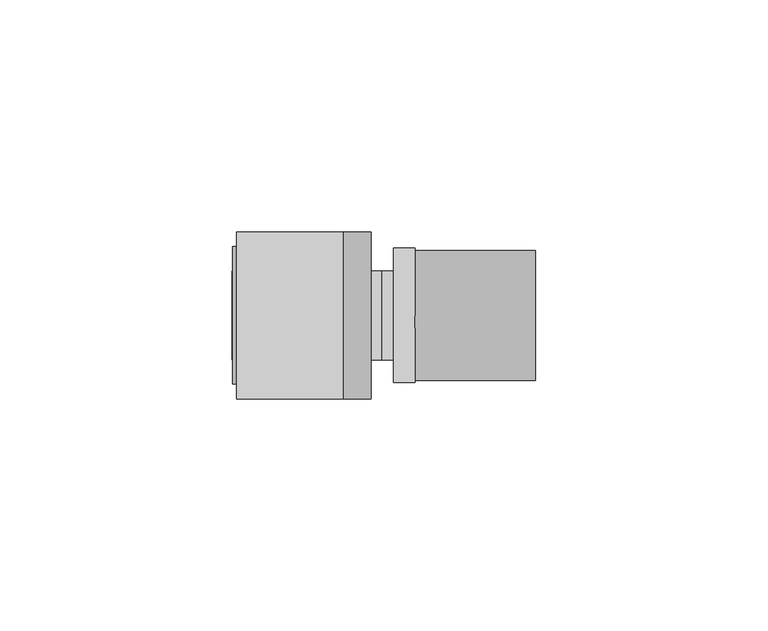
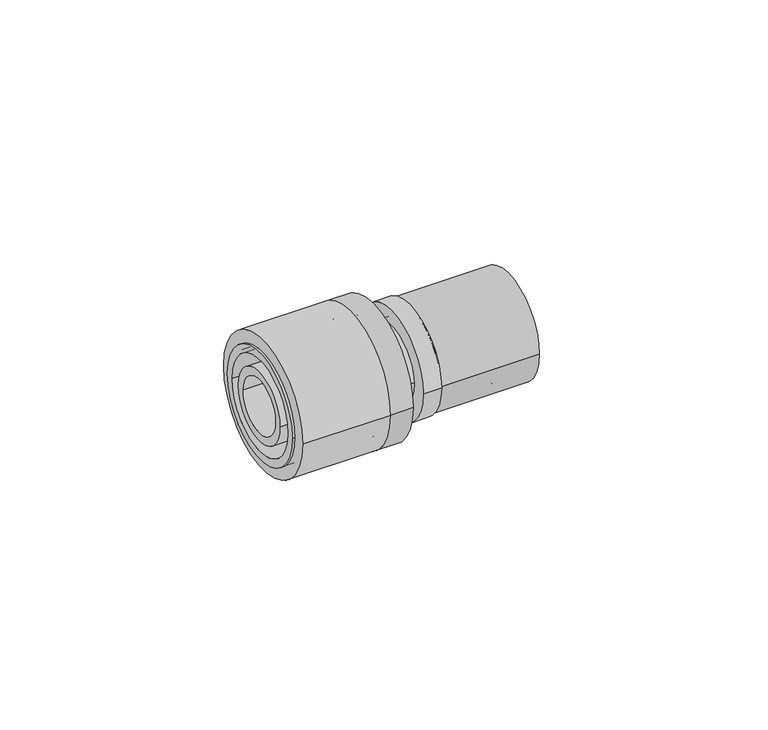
"""IFC4 building model written with IfcOpenShell, lengths in millimetres: pipe fitting geometry, FASTLOC_Coupling reduced LX : FSL C LX CZ."""

from ifc_helpers import new_model, si_unit, point, frame, origin, origin_2d, place, context, project, spatial, polyline, circle_curve, trimmed, segment, composite_curve, outline, extrude, source, transform, mapped, element, save
from ifc_brep_helpers import plane_surface, cylinder_surface, revolved_surface, advanced_brep


def pipe_fitting_0562571e(model_context):
    return source(origin(), model_context, "Body", "SolidModel", [
        extrude(outline(composite_curve([segment(trimmed(circle_curve(origin_2d(), 14.0), [point((-14.0, 0.0))], [point((14.0, 0.0))], False, "CARTESIAN"), True, "CONTINUOUS"), segment(trimmed(circle_curve(origin_2d(), 14.0), [point((14.0, 0.0))], [point((-14.0, 0.0))], False, "CARTESIAN"), True, "CONTINUOUS")], self_intersect=False), holes=[composite_curve([segment(trimmed(circle_curve(origin_2d(), 10.7), [point((-10.7, 0.0))], [point((10.7, 0.0))], True, "CARTESIAN"), True, "CONTINUOUS"), segment(trimmed(circle_curve(origin_2d(), 10.7), [point((10.7, 0.0))], [point((-10.7, 0.0))], True, "CARTESIAN"), True, "CONTINUOUS")], self_intersect=False)]), frame((5.7, 0.0, 0.0), z_axis=(1.0, 0.0, 0.0), x_axis=(0.0, 1.0, 0.0)), (0.0, 0.0, 1.0), 26.0),
        advanced_brep(
        [(5.7, 14.5, 0.0), (5.7, -14.5, 0.0), (1.0, -14.5, 0.0), (1.0, 14.5, 0.0), (22.7, 11.85, 0.0), (22.7, -11.85, 0.0), (5.7, -11.85, 0.0), (5.7, 11.85, 0.0), (1.0, 10.15, 0.0), (1.0, -10.15, 0.0), (22.7, -10.15, 0.0), (22.7, 10.15, 0.0)],
        [
            (0, 1, circle_curve(frame((5.7, 0.0, 0.0), z_axis=(-1.0, 0.0, 0.0), x_axis=(0.0, -1.0, 0.0)), 14.5)),
            (1, 2),
            (2, 3, circle_curve(frame((1.0, 0.0, 0.0), z_axis=(1.0, 0.0, 0.0), x_axis=(0.0, -1.0, 0.0)), 14.5)),
            (3, 0),
            (4, 5, circle_curve(frame((22.7, 0.0, 0.0), z_axis=(-1.0, 0.0, 0.0), x_axis=(0.0, -1.0, 0.0)), 11.85)),
            (5, 6),
            (6, 7, circle_curve(frame((5.7, 0.0, 0.0), z_axis=(1.0, 0.0, 0.0), x_axis=(0.0, -1.0, 0.0)), 11.85)),
            (7, 4),
            (8, 9, circle_curve(frame((1.0, 0.0, 0.0), z_axis=(-1.0, 0.0, 0.0), x_axis=(0.0, -1.0, 0.0)), 10.15)),
            (9, 10),
            (10, 11, circle_curve(frame((22.7, 0.0, 0.0), z_axis=(1.0, 0.0, 0.0), x_axis=(0.0, -1.0, 0.0)), 10.15)),
            (11, 8),
            (1, 0, circle_curve(frame((5.7, 0.0, 0.0), z_axis=(-1.0, 0.0, 0.0), x_axis=(0.0, 1.0, 0.0)), 14.5)),
            (3, 2, circle_curve(frame((1.0, 0.0, 0.0), z_axis=(1.0, 0.0, 0.0), x_axis=(0.0, 1.0, 0.0)), 14.5)),
            (6, 7, circle_curve(frame((5.7, 0.0, 0.0), z_axis=(-1.0, 0.0, 0.0), x_axis=(0.0, 1.0, 0.0)), 11.85)),
            (5, 4, circle_curve(frame((22.7, 0.0, 0.0), z_axis=(-1.0, 0.0, 0.0), x_axis=(0.0, 1.0, 0.0)), 11.85)),
            (10, 11, circle_curve(frame((22.7, 0.0, 0.0), z_axis=(-1.0, 0.0, 0.0), x_axis=(0.0, 1.0, 0.0)), 10.15)),
            (9, 8, circle_curve(frame((1.0, 0.0, 0.0), z_axis=(-1.0, 0.0, 0.0), x_axis=(0.0, 1.0, 0.0)), 10.15)),
        ],
        [
            cylinder_surface(frame((1.0, 0.0, 0.0), z_axis=(1.0, 0.0, 0.0), x_axis=(0.0, -1.0, 0.0)), 14.5),
            cylinder_surface(frame((1.0, 0.0, 0.0), z_axis=(1.0, 0.0, 0.0), x_axis=(0.0, -1.0, 0.0)), 11.85),
            revolved_surface(polyline([(22.7, -10.15, 0.0), (1.0, -10.15, 0.0)]), (1.0, 0.0, 0.0), (1.0, 0.0, 0.0)),
            cylinder_surface(frame((1.0, 0.0, 0.0), z_axis=(1.0, 0.0, 0.0), x_axis=(0.0, 1.0, 0.0)), 14.5),
            plane_surface(frame((5.7, 0.0, 0.0), z_axis=(1.0, 0.0, 0.0), x_axis=(0.0, 1.0, 0.0))),
            cylinder_surface(frame((1.0, 0.0, 0.0), z_axis=(1.0, 0.0, 0.0), x_axis=(0.0, 1.0, 0.0)), 11.85),
            plane_surface(frame((22.7, 0.0, 0.0), z_axis=(1.0, 0.0, 0.0), x_axis=(0.0, 1.0, 0.0))),
            revolved_surface(polyline([(22.7, 10.15, 0.0), (1.0, 10.15, 0.0)]), (1.0, 0.0, 0.0), (1.0, 0.0, 0.0)),
            plane_surface(frame((1.0, 0.0, 0.0), z_axis=(-1.0, 0.0, 0.0), x_axis=(0.0, 1.0, 0.0))),
        ],
        [
            (0, [[1, 2, 3, 4]]),
            (1, [[5, 6, 7, 8]]),
            (2, [[9, 10, 11, 12]]),
            (3, [[13, -4, 14, -2]]),
            (4, [[-13, -1], [15, -7]]),
            (5, [[16, -8, -15, -6]]),
            (6, [[-16, -5], [17, -11]]),
            (7, [[18, -12, -17, -10]]),
            (8, [[-14, -3], [-18, -9]]),
        ],
    ),
        extrude(outline(composite_curve([segment(trimmed(circle_curve(origin_2d(), 18.0), [point((18.0, 0.0))], [point((-18.0, 0.0))], False, "CARTESIAN"), True, "CONTINUOUS"), segment(trimmed(circle_curve(origin_2d(), 18.0), [point((-18.0, 0.0))], [point((18.0, 0.0))], False, "CARTESIAN"), True, "CONTINUOUS")], self_intersect=False), holes=[composite_curve([segment(trimmed(circle_curve(origin_2d(), 13.5), [point((13.5, 0.0))], [point((-13.5, 0.0))], True, "CARTESIAN"), True, "CONTINUOUS"), segment(trimmed(circle_curve(origin_2d(), 13.5), [point((-13.5, 0.0))], [point((13.5, 0.0))], True, "CARTESIAN"), True, "CONTINUOUS")], self_intersect=False)]), frame((-32.8, 0.0, 0.0), z_axis=(1.0, 0.0, 0.0), x_axis=(0.0, 1.0, 0.0)), (0.0, 0.0, 1.0), 23.0),
        advanced_brep(
        [(-9.8, -18.0, 0.0), (-9.8, 18.0, 0.0), (-3.8, 18.0, 0.0), (-3.8, -18.0, 0.0), (-33.6, -14.85, 0.0), (-33.6, 14.85, 0.0), (-9.8, 14.85, 0.0), (-9.8, -14.85, 0.0), (-3.8, -12.65, 0.0), (-3.8, 12.65, 0.0), (-33.6, 12.65, 0.0), (-33.6, -12.65, 0.0)],
        [
            (0, 1, circle_curve(frame((-9.8, 0.0, 0.0), z_axis=(1.0, 0.0, 0.0), x_axis=(0.0, 1.0, 0.0)), 18.0)),
            (1, 2),
            (2, 3, circle_curve(frame((-3.8, 0.0, 0.0), z_axis=(-1.0, 0.0, 0.0), x_axis=(0.0, 1.0, 0.0)), 18.0)),
            (3, 0),
            (4, 5, circle_curve(frame((-33.6, 0.0, 0.0), z_axis=(1.0, 0.0, 0.0), x_axis=(0.0, 1.0, 0.0)), 14.85)),
            (5, 6),
            (6, 7, circle_curve(frame((-9.8, 0.0, 0.0), z_axis=(-1.0, 0.0, 0.0), x_axis=(0.0, 1.0, 0.0)), 14.85)),
            (7, 4),
            (8, 9, circle_curve(frame((-3.8, 0.0, 0.0), z_axis=(1.0, 0.0, 0.0), x_axis=(0.0, 1.0, 0.0)), 12.65)),
            (9, 10),
            (10, 11, circle_curve(frame((-33.6, 0.0, 0.0), z_axis=(-1.0, 0.0, 0.0), x_axis=(0.0, 1.0, 0.0)), 12.65)),
            (11, 8),
            (1, 0, circle_curve(frame((-9.8, 0.0, 0.0), z_axis=(1.0, 0.0, 0.0), x_axis=(0.0, -1.0, 0.0)), 18.0)),
            (3, 2, circle_curve(frame((-3.8, 0.0, 0.0), z_axis=(-1.0, 0.0, 0.0), x_axis=(0.0, -1.0, 0.0)), 18.0)),
            (6, 7, circle_curve(frame((-9.8, 0.0, 0.0), z_axis=(1.0, 0.0, 0.0), x_axis=(0.0, -1.0, 0.0)), 14.85)),
            (5, 4, circle_curve(frame((-33.6, 0.0, 0.0), z_axis=(1.0, 0.0, 0.0), x_axis=(0.0, -1.0, 0.0)), 14.85)),
            (10, 11, circle_curve(frame((-33.6, 0.0, 0.0), z_axis=(1.0, 0.0, 0.0), x_axis=(0.0, -1.0, 0.0)), 12.65)),
            (9, 8, circle_curve(frame((-3.8, 0.0, 0.0), z_axis=(1.0, 0.0, 0.0), x_axis=(0.0, -1.0, 0.0)), 12.65)),
        ],
        [
            cylinder_surface(frame((-3.8, 0.0, 0.0), z_axis=(-1.0, 0.0, 0.0), x_axis=(0.0, 1.0, 0.0)), 18.0),
            cylinder_surface(frame((-3.8, 0.0, 0.0), z_axis=(-1.0, 0.0, 0.0), x_axis=(0.0, 1.0, 0.0)), 14.85),
            revolved_surface(polyline([(-33.6, 12.65, 0.0), (-3.8, 12.65, 0.0)]), (-3.8, 0.0, 0.0), (-1.0, 0.0, 0.0)),
            cylinder_surface(frame((-3.8, 0.0, 0.0), z_axis=(-1.0, 0.0, 0.0), x_axis=(0.0, -1.0, 0.0)), 18.0),
            plane_surface(frame((-9.8, 0.0, 0.0), z_axis=(-1.0, 0.0, 0.0), x_axis=(0.0, -1.0, 0.0))),
            cylinder_surface(frame((-3.8, 0.0, 0.0), z_axis=(-1.0, 0.0, 0.0), x_axis=(0.0, -1.0, 0.0)), 14.85),
            plane_surface(frame((-33.6, 0.0, 0.0), z_axis=(-1.0, 0.0, 0.0), x_axis=(0.0, -1.0, 0.0))),
            revolved_surface(polyline([(-33.6, -12.65, 0.0), (-3.8, -12.65, 0.0)]), (-3.8, 0.0, 0.0), (-1.0, 0.0, 0.0)),
            plane_surface(frame((-3.8, 0.0, 0.0), z_axis=(1.0, 0.0, 0.0), x_axis=(0.0, -1.0, 0.0))),
        ],
        [
            (0, [[1, 2, 3, 4]]),
            (1, [[5, 6, 7, 8]]),
            (2, [[9, 10, 11, 12]]),
            (3, [[13, -4, 14, -2]]),
            (4, [[-13, -1], [15, -7]]),
            (5, [[16, -8, -15, -6]]),
            (6, [[-16, -5], [17, -11]]),
            (7, [[18, -12, -17, -10]]),
            (8, [[-14, -3], [-18, -9]]),
        ],
    ),
        advanced_brep(
        [(-1.5, 9.6, 0.0), (-1.5, -9.6, 0.0), (-7.0, -9.6, 0.0), (-7.0, 9.6, 0.0), (-7.0, 11.1, 0.0), (-7.0, -11.1, 0.0), (-9.8, -11.1, 0.0), (-9.8, 11.1, 0.0), (-9.8, 9.6, 0.0), (-9.8, -9.6, 0.0), (-33.8, -9.6, 0.0), (-33.8, 9.6, 0.0), (-33.8, 7.35, 0.0), (-33.8, -7.35, 0.0), (-1.5, -7.35, 0.0), (-1.5, 7.35, 0.0), (-1.5, 5.55, 0.0), (-1.5, -5.55, 0.0), (23.1, -5.55, 0.0), (23.1, 5.55, 0.0), (23.1, 7.5229189, 0.0), (23.1, -7.5229189, 0.0), (5.7, -7.5229189, 0.0), (5.7, 7.5229189, 0.0), (5.7, 8.6, 0.0), (5.7, -8.6, 0.0), (3.0, -8.6, 0.0), (3.0, 8.6, 0.0), (3.0, 7.55, 0.0), (3.0, -7.55, 0.0), (2.0, -7.55, 0.0), (2.0, 7.55, 0.0), (2.0, 9.6, 0.0), (2.0, -9.6, 0.0)],
        [
            (0, 1, circle_curve(frame((-1.5, 0.0, 0.0), z_axis=(-1.0, 0.0, 0.0), x_axis=(0.0, -1.0, 0.0)), 9.6)),
            (1, 2),
            (2, 3, circle_curve(frame((-7.0, 0.0, 0.0), z_axis=(1.0, 0.0, 0.0), x_axis=(0.0, -1.0, 0.0)), 9.6)),
            (3, 0),
            (4, 5, circle_curve(frame((-7.0, 0.0, 0.0), z_axis=(-1.0, 0.0, 0.0), x_axis=(0.0, -1.0, 0.0)), 11.1)),
            (5, 6),
            (6, 7, circle_curve(frame((-9.8, 0.0, 0.0), z_axis=(1.0, 0.0, 0.0), x_axis=(0.0, -1.0, 0.0)), 11.1)),
            (7, 4),
            (8, 9, circle_curve(frame((-9.8, 0.0, 0.0), z_axis=(-1.0, 0.0, 0.0), x_axis=(0.0, -1.0, 0.0)), 9.6)),
            (9, 10),
            (10, 11, circle_curve(frame((-33.8, 0.0, 0.0), z_axis=(1.0, 0.0, 0.0), x_axis=(0.0, -1.0, 0.0)), 9.6)),
            (11, 8),
            (12, 13, circle_curve(frame((-33.8, 0.0, 0.0), z_axis=(-1.0, 0.0, 0.0), x_axis=(0.0, -1.0, 0.0)), 7.35)),
            (13, 14),
            (14, 15, circle_curve(frame((-1.5, 0.0, 0.0), z_axis=(1.0, 0.0, 0.0), x_axis=(0.0, -1.0, 0.0)), 7.35)),
            (15, 12),
            (1, 0, circle_curve(frame((-1.5, 0.0, 0.0), z_axis=(-1.0, 0.0, 0.0), x_axis=(0.0, 1.0, 0.0)), 9.6)),
            (3, 2, circle_curve(frame((-7.0, 0.0, 0.0), z_axis=(1.0, 0.0, 0.0), x_axis=(0.0, 1.0, 0.0)), 9.6)),
            (4, 5, circle_curve(frame((-7.0, 0.0, 0.0), z_axis=(1.0, 0.0, 0.0), x_axis=(0.0, 1.0, 0.0)), 11.1)),
            (7, 6, circle_curve(frame((-9.8, 0.0, 0.0), z_axis=(1.0, 0.0, 0.0), x_axis=(0.0, 1.0, 0.0)), 11.1)),
            (8, 9, circle_curve(frame((-9.8, 0.0, 0.0), z_axis=(1.0, 0.0, 0.0), x_axis=(0.0, 1.0, 0.0)), 9.6)),
            (11, 10, circle_curve(frame((-33.8, 0.0, 0.0), z_axis=(1.0, 0.0, 0.0), x_axis=(0.0, 1.0, 0.0)), 9.6)),
            (12, 13, circle_curve(frame((-33.8, 0.0, 0.0), z_axis=(1.0, 0.0, 0.0), x_axis=(0.0, 1.0, 0.0)), 7.35)),
            (15, 14, circle_curve(frame((-1.5, 0.0, 0.0), z_axis=(1.0, 0.0, 0.0), x_axis=(0.0, 1.0, 0.0)), 7.35)),
            (16, 17, circle_curve(frame((-1.5, 0.0, 0.0), z_axis=(-1.0, 0.0, 0.0), x_axis=(0.0, -1.0, 0.0)), 5.55)),
            (17, 18),
            (18, 19, circle_curve(frame((23.1, 0.0, 0.0), z_axis=(1.0, 0.0, 0.0), x_axis=(0.0, -1.0, 0.0)), 5.55)),
            (19, 16),
            (20, 21, circle_curve(frame((23.1, 0.0, 0.0), z_axis=(-1.0, 0.0, 0.0), x_axis=(0.0, -1.0, 0.0)), 7.5229189)),
            (21, 22),
            (22, 23, circle_curve(frame((5.7, 0.0, 0.0), z_axis=(1.0, 0.0, 0.0), x_axis=(0.0, -1.0, 0.0)), 7.5229189)),
            (23, 20),
            (24, 25, circle_curve(frame((5.7, 0.0, 0.0), z_axis=(-1.0, 0.0, 0.0), x_axis=(0.0, -1.0, 0.0)), 8.6)),
            (25, 26),
            (26, 27, circle_curve(frame((3.0, 0.0, 0.0), z_axis=(1.0, 0.0, 0.0), x_axis=(0.0, -1.0, 0.0)), 8.6)),
            (27, 24),
            (28, 29, circle_curve(frame((3.0, 0.0, 0.0), z_axis=(-1.0, 0.0, 0.0), x_axis=(0.0, -1.0, 0.0)), 7.55)),
            (29, 30),
            (30, 31, circle_curve(frame((2.0, 0.0, 0.0), z_axis=(1.0, 0.0, 0.0), x_axis=(0.0, -1.0, 0.0)), 7.55)),
            (31, 28),
            (32, 33, circle_curve(frame((2.0, 0.0, 0.0), z_axis=(-1.0, 0.0, 0.0), x_axis=(0.0, -1.0, 0.0)), 9.6)),
            (33, 1),
            (0, 32),
            (16, 17, circle_curve(frame((-1.5, 0.0, 0.0), z_axis=(1.0, 0.0, 0.0), x_axis=(0.0, 1.0, 0.0)), 5.55)),
            (19, 18, circle_curve(frame((23.1, 0.0, 0.0), z_axis=(1.0, 0.0, 0.0), x_axis=(0.0, 1.0, 0.0)), 5.55)),
            (20, 21, circle_curve(frame((23.1, 0.0, 0.0), z_axis=(1.0, 0.0, 0.0), x_axis=(0.0, 1.0, 0.0)), 7.5229189)),
            (23, 22, circle_curve(frame((5.7, 0.0, 0.0), z_axis=(1.0, 0.0, 0.0), x_axis=(0.0, 1.0, 0.0)), 7.5229189)),
            (24, 25, circle_curve(frame((5.7, 0.0, 0.0), z_axis=(1.0, 0.0, 0.0), x_axis=(0.0, 1.0, 0.0)), 8.6)),
            (27, 26, circle_curve(frame((3.0, 0.0, 0.0), z_axis=(1.0, 0.0, 0.0), x_axis=(0.0, 1.0, 0.0)), 8.6)),
            (28, 29, circle_curve(frame((3.0, 0.0, 0.0), z_axis=(1.0, 0.0, 0.0), x_axis=(0.0, 1.0, 0.0)), 7.55)),
            (31, 30, circle_curve(frame((2.0, 0.0, 0.0), z_axis=(1.0, 0.0, 0.0), x_axis=(0.0, 1.0, 0.0)), 7.55)),
            (32, 33, circle_curve(frame((2.0, 0.0, 0.0), z_axis=(1.0, 0.0, 0.0), x_axis=(0.0, 1.0, 0.0)), 9.6)),
        ],
        [
            cylinder_surface(frame((0.0, 0.0, 0.0), z_axis=(1.0, 0.0, 0.0), x_axis=(0.0, -1.0, 0.0)), 9.6),
            cylinder_surface(frame((0.0, 0.0, 0.0), z_axis=(1.0, 0.0, 0.0), x_axis=(0.0, -1.0, 0.0)), 11.1),
            revolved_surface(polyline([(-1.5, -7.35, 0.0), (-33.8, -7.35, 0.0)]), (0.0, 0.0, 0.0), (1.0, 0.0, 0.0)),
            cylinder_surface(frame((0.0, 0.0, 0.0), z_axis=(1.0, 0.0, 0.0), x_axis=(0.0, 1.0, 0.0)), 9.6),
            plane_surface(frame((-7.0, 0.0, 0.0), z_axis=(1.0, 0.0, 0.0), x_axis=(0.0, 1.0, 0.0))),
            cylinder_surface(frame((0.0, 0.0, 0.0), z_axis=(1.0, 0.0, 0.0), x_axis=(0.0, 1.0, 0.0)), 11.1),
            plane_surface(frame((-9.8, 0.0, 0.0), z_axis=(-1.0, 0.0, 0.0), x_axis=(0.0, 1.0, 0.0))),
            plane_surface(frame((-33.8, 0.0, 0.0), z_axis=(-1.0, 0.0, 0.0), x_axis=(0.0, 1.0, 0.0))),
            revolved_surface(polyline([(-1.5, 7.35, 0.0), (-33.8, 7.35, 0.0)]), (0.0, 0.0, 0.0), (1.0, 0.0, 0.0)),
            revolved_surface(polyline([(23.1, -5.55, 0.0), (-1.5, -5.55, 0.0)]), (0.0, 0.0, 0.0), (1.0, 0.0, 0.0)),
            cylinder_surface(frame((0.0, 0.0, 0.0), z_axis=(1.0, 0.0, 0.0), x_axis=(0.0, -1.0, 0.0)), 7.5229189),
            cylinder_surface(frame((0.0, 0.0, 0.0), z_axis=(1.0, 0.0, 0.0), x_axis=(0.0, -1.0, 0.0)), 8.6),
            cylinder_surface(frame((0.0, 0.0, 0.0), z_axis=(1.0, 0.0, 0.0), x_axis=(0.0, -1.0, 0.0)), 7.55),
            plane_surface(frame((-1.5, 0.0, 0.0), z_axis=(-1.0, 0.0, 0.0), x_axis=(0.0, 1.0, 0.0))),
            revolved_surface(polyline([(23.1, 5.55, 0.0), (-1.5, 5.55, 0.0)]), (0.0, 0.0, 0.0), (1.0, 0.0, 0.0)),
            plane_surface(frame((23.1, 0.0, 0.0), z_axis=(1.0, 0.0, 0.0), x_axis=(0.0, 1.0, 0.0))),
            cylinder_surface(frame((0.0, 0.0, 0.0), z_axis=(1.0, 0.0, 0.0), x_axis=(0.0, 1.0, 0.0)), 7.5229189),
            plane_surface(frame((5.7, 0.0, 0.0), z_axis=(1.0, 0.0, 0.0), x_axis=(0.0, 1.0, 0.0))),
            cylinder_surface(frame((0.0, 0.0, 0.0), z_axis=(1.0, 0.0, 0.0), x_axis=(0.0, 1.0, 0.0)), 8.6),
            plane_surface(frame((3.0, 0.0, 0.0), z_axis=(-1.0, 0.0, 0.0), x_axis=(0.0, 1.0, 0.0))),
            cylinder_surface(frame((0.0, 0.0, 0.0), z_axis=(1.0, 0.0, 0.0), x_axis=(0.0, 1.0, 0.0)), 7.55),
            plane_surface(frame((2.0, 0.0, 0.0), z_axis=(1.0, 0.0, 0.0), x_axis=(0.0, 1.0, 0.0))),
        ],
        [
            (0, [[1, 2, 3, 4]]),
            (1, [[5, 6, 7, 8]]),
            (0, [[9, 10, 11, 12]]),
            (2, [[13, 14, 15, 16]]),
            (3, [[17, -4, 18, -2]]),
            (4, [[19, -5], [-18, -3]]),
            (5, [[-19, -8, 20, -6]]),
            (6, [[-20, -7], [21, -9]]),
            (3, [[-21, -12, 22, -10]]),
            (7, [[-22, -11], [23, -13]]),
            (8, [[-23, -16, 24, -14]]),
            (9, [[25, 26, 27, 28]]),
            (10, [[29, 30, 31, 32]]),
            (11, [[33, 34, 35, 36]]),
            (12, [[37, 38, 39, 40]]),
            (0, [[41, 42, -1, 43]]),
            (13, [[-24, -15], [44, -25]]),
            (14, [[-44, -28, 45, -26]]),
            (15, [[46, -29], [-45, -27]]),
            (16, [[-46, -32, 47, -30]]),
            (17, [[48, -33], [-47, -31]]),
            (18, [[-48, -36, 49, -34]]),
            (19, [[-49, -35], [50, -37]]),
            (20, [[-50, -40, 51, -38]]),
            (21, [[52, -41], [-51, -39]]),
            (3, [[-52, -43, -17, -42]]),
        ],
    ),
    ])


if __name__ == "__main__":
    model = new_model("IFC4")
    model_context = context("Model", 3, world=origin())
    ifc_project = project(units=[si_unit("LENGTHUNIT", "METRE", prefix="MILLI")], contexts=[model_context])
    site = spatial("IfcSite", under=ifc_project)
    building = spatial("IfcBuilding", under=site)
    placement = place(None, origin())
    pipe_fitting_shape = pipe_fitting_0562571e(model_context)
    element("IfcPipeFitting", 1, ObjectType="FASTLOC_Coupling reduced LX : FSL C LX CZ", at=placement, inside=building, context=model_context, shape_type="MappedRepresentation", body=[
        mapped(pipe_fitting_shape, transform((0.0, 0.0, 0.0), x_axis=(1.0, 0.0, 0.0), y_axis=(0.0, 1.0, 0.0), z_axis=(0.0, 0.0, 1.0))),
    ])
    save(model, "model.ifc")
